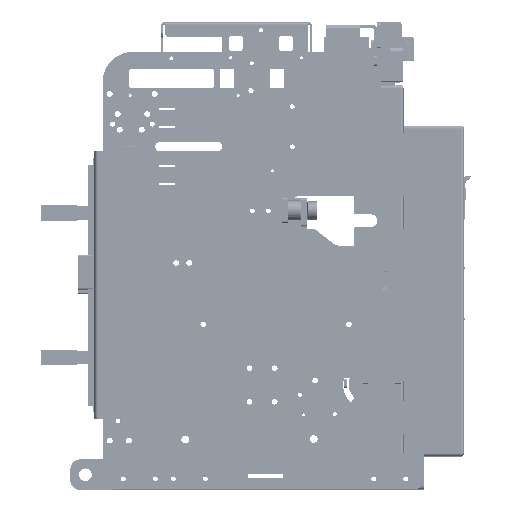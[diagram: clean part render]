
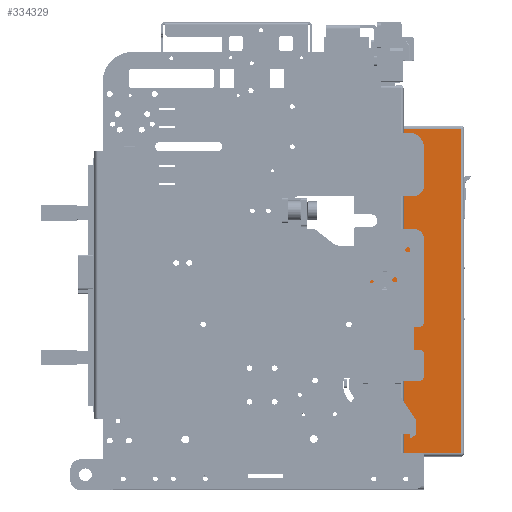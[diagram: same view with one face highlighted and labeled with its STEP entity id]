
A CAD part, top view. The second image highlights one B-rep face of the part: STEP entity #334329.
In plain terms, the highlighted planar face has unit normal (0, 0, 1) as drawn and (-1, 0, 0) by its records, which use the part's own axes.
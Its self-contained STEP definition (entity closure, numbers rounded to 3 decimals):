
#316658=DIRECTION('',(0.,0.,1.));
#316659=VECTOR('',#316658,34.);
#316660=CARTESIAN_POINT('',(-135.,-0.25,13.));
#316661=LINE('',#316660,#316659);
#316662=DIRECTION('',(0.,0.,-1.));
#316663=VECTOR('',#316662,57.);
#316664=CARTESIAN_POINT('',(-135.,148.35,106.));
#316665=LINE('',#316664,#316663);
#316666=DIRECTION('',(0.,-1.,0.));
#316667=VECTOR('',#316666,324.);
#316668=CARTESIAN_POINT('',(-135.,148.35,106.));
#316669=LINE('',#316668,#316667);
#316670=DIRECTION('',(0.,0.,-1.));
#316671=VECTOR('',#316670,57.);
#316672=CARTESIAN_POINT('',(-135.,-175.65,106.));
#316673=LINE('',#316672,#316671);
#316674=DIRECTION('',(0.,0.,1.));
#316675=VECTOR('',#316674,34.);
#316676=CARTESIAN_POINT('',(-135.,-6.65,13.));
#316677=LINE('',#316676,#316675);
#316688=CARTESIAN_POINT('',(-135.,-0.25,47.));
#316689=CARTESIAN_POINT('',(-135.,0.171,47.281));
#316690=CARTESIAN_POINT('',(-135.,0.981,47.819));
#316691=CARTESIAN_POINT('',(-135.,2.174,48.476));
#316692=CARTESIAN_POINT('',(-135.,3.346,48.901));
#316693=CARTESIAN_POINT('',(-135.,4.081,49.));
#316694=CARTESIAN_POINT('',(-135.,4.44,49.));
#317019=DIRECTION('',(0.,-1.,0.));
#317020=VECTOR('',#317019,164.31);
#317021=CARTESIAN_POINT('',(-135.,-11.34,49.));
#317022=LINE('',#317021,#317020);
#317044=DIRECTION('',(0.,-1.,0.));
#317045=VECTOR('',#317044,143.91);
#317046=CARTESIAN_POINT('',(-135.,148.35,49.));
#317047=LINE('',#317046,#317045);
#322627=DIRECTION('',(0.,-1.,0.));
#322628=VECTOR('',#322627,6.4);
#322629=CARTESIAN_POINT('',(-135.,-0.25,13.));
#322630=LINE('',#322629,#322628);
#322723=CARTESIAN_POINT('',(-135.,-11.34,49.));
#322724=CARTESIAN_POINT('',(-135.,-10.981,49.));
#322725=CARTESIAN_POINT('',(-135.,-10.245,48.901));
#322726=CARTESIAN_POINT('',(-135.,-9.073,48.476));
#322727=CARTESIAN_POINT('',(-135.,-7.881,47.819));
#322728=CARTESIAN_POINT('',(-135.,-7.071,47.281));
#322729=CARTESIAN_POINT('',(-135.,-6.65,47.));
#325704=CARTESIAN_POINT('',(-135.,-175.65,106.));
#325706=VERTEX_POINT('',#325704);
#325730=CARTESIAN_POINT('',(-135.,-175.65,49.));
#325731=VERTEX_POINT('',#325730);
#325734=CARTESIAN_POINT('',(-135.,148.35,106.));
#325735=VERTEX_POINT('',#325734);
#325752=CARTESIAN_POINT('',(-135.,148.35,49.));
#325753=VERTEX_POINT('',#325752);
#327587=CARTESIAN_POINT('',(-135.,-0.25,13.));
#327589=VERTEX_POINT('',#327587);
#327592=CARTESIAN_POINT('',(-135.,-6.65,13.));
#327594=VERTEX_POINT('',#327592);
#327904=CARTESIAN_POINT('',(-135.,-11.34,49.));
#327906=VERTEX_POINT('',#327904);
#327908=CARTESIAN_POINT('',(-135.,-6.65,47.));
#327910=VERTEX_POINT('',#327908);
#327928=CARTESIAN_POINT('',(-135.,-0.25,47.));
#327930=VERTEX_POINT('',#327928);
#327932=CARTESIAN_POINT('',(-135.,4.44,49.));
#327934=VERTEX_POINT('',#327932);
#334303=CARTESIAN_POINT('',(-135.,151.35,49.));
#334304=DIRECTION('',(-1.,0.,0.));
#334305=DIRECTION('',(0.,-1.,0.));
#334306=AXIS2_PLACEMENT_3D('',#334303,#334304,#334305);
#334307=PLANE('',#334306);
#334309=ORIENTED_EDGE('',*,*,#334308,.T.);
#334311=ORIENTED_EDGE('',*,*,#334310,.T.);
#334313=ORIENTED_EDGE('',*,*,#334312,.F.);
#334315=ORIENTED_EDGE('',*,*,#334314,.F.);
#334316=ORIENTED_EDGE('',*,*,#334295,.T.);
#334318=ORIENTED_EDGE('',*,*,#334317,.T.);
#334320=ORIENTED_EDGE('',*,*,#334319,.F.);
#334322=ORIENTED_EDGE('',*,*,#334321,.T.);
#334324=ORIENTED_EDGE('',*,*,#334323,.F.);
#334326=ORIENTED_EDGE('',*,*,#334325,.F.);
#334327=EDGE_LOOP('',(#334309,#334311,#334313,#334315,#334316,#334318,#334320,
#334322,#334324,#334326));
#334328=FACE_OUTER_BOUND('',#334327,.F.);
#334329=ADVANCED_FACE('',(#334328),#334307,.T.);
#316695=B_SPLINE_CURVE_WITH_KNOTS('',3,(#316688,#316689,#316690,#316691,#316692,
#316693,#316694),.UNSPECIFIED.,.F.,.F.,(4,1,1,1,4),(0.,0.25,0.5,0.75,
1.),.UNSPECIFIED.);
#322730=B_SPLINE_CURVE_WITH_KNOTS('',3,(#322723,#322724,#322725,#322726,#322727,
#322728,#322729),.UNSPECIFIED.,.F.,.F.,(4,1,1,1,4),(0.,0.25,0.5,0.75,
1.),.UNSPECIFIED.);
#334295=EDGE_CURVE('',#325735,#325706,#316669,.T.);
#334308=EDGE_CURVE('',#327589,#327930,#316661,.T.);
#334310=EDGE_CURVE('',#327930,#327934,#316695,.T.);
#334312=EDGE_CURVE('',#325753,#327934,#317047,.T.);
#334314=EDGE_CURVE('',#325735,#325753,#316665,.T.);
#334317=EDGE_CURVE('',#325706,#325731,#316673,.T.);
#334319=EDGE_CURVE('',#327906,#325731,#317022,.T.);
#334321=EDGE_CURVE('',#327906,#327910,#322730,.T.);
#334323=EDGE_CURVE('',#327594,#327910,#316677,.T.);
#334325=EDGE_CURVE('',#327589,#327594,#322630,.T.);
